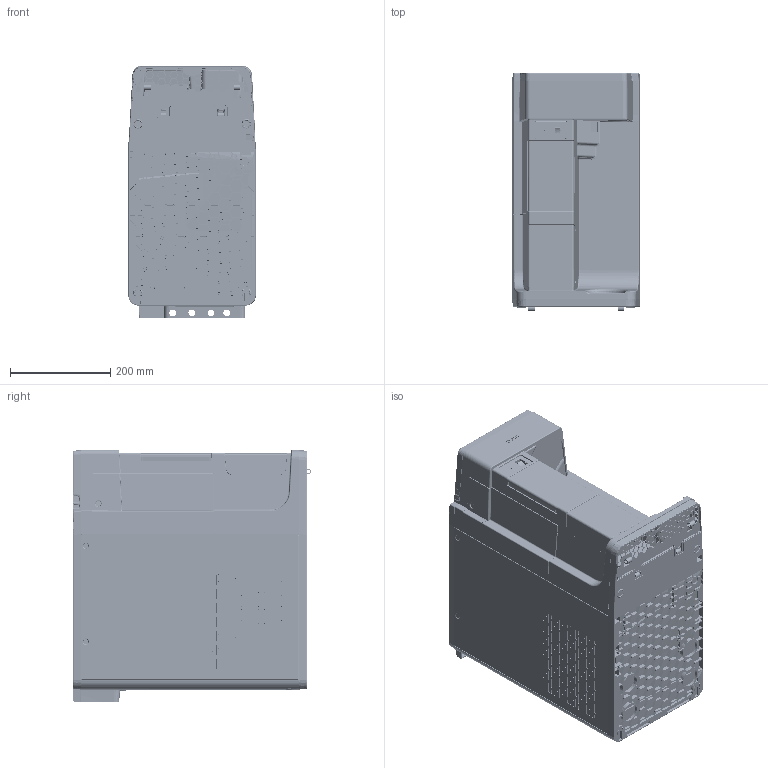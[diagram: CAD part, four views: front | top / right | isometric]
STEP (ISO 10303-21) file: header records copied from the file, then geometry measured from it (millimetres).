
FILE_DESCRIPTION (( 'STEP AP203' ), '1' );
FILE_NAME ('BEVI CT1_5 CHILLER SINGLEPART.STEP', '2025-08-04T14:52:58', ( '' ), ( '' ), 'SwSTEP 2.0', 'SolidWorks 2025', '' );
FILE_SCHEMA (( 'CONFIG_CONTROL_DESIGN' ));
Products named in the file (1): BEVI CT1_5 CHILLER SINGLEPART
Bounding box: 254.49 x 473.93 x 502.81 mm (x, y, z)
Volume: 47437569.2 mm3; surface area: 1493943.7 mm2
Topology: 1 solids, 39 shells, 8497 faces, 23263 edges, 15264 vertices
Faces by surface type: plane 4587, cylinder 1748, cone 1502, bspline 484, torus 147, sphere 29
Entity records: 329491 total; most frequent: CARTESIAN_POINT 121778, ORIENTED_EDGE 46454, DIRECTION 39637, EDGE_CURVE 23227, VERTEX_POINT 15264, VECTOR 14493, LINE 14493, AXIS2_PLACEMENT_3D 12572
